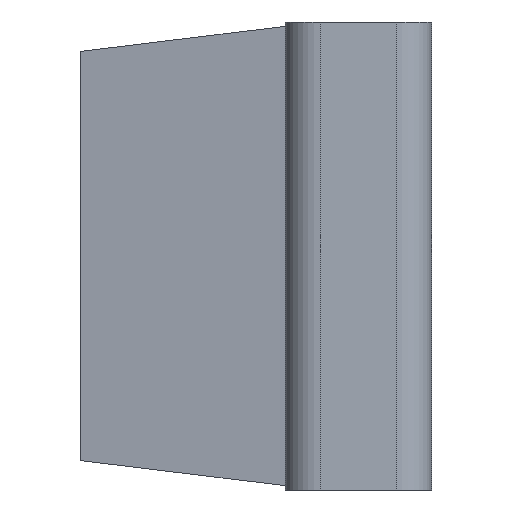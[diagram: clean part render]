
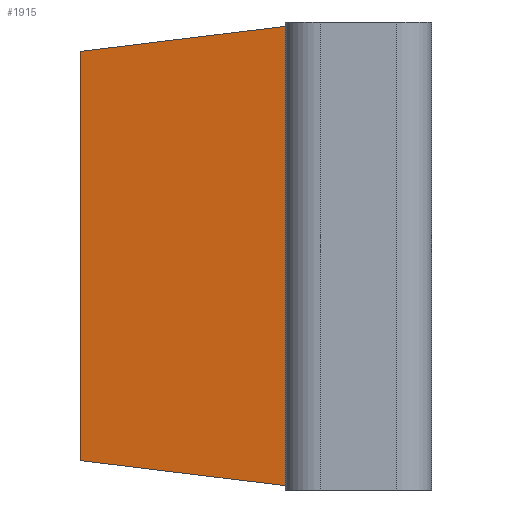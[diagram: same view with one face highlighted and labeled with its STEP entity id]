
A CAD part, left-side view. The second image highlights one B-rep face of the part: STEP entity #1915.
In plain terms, the highlighted planar face has unit normal (-0.993, 0.122, 0).
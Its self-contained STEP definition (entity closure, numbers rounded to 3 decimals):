
#78 = VERTEX_POINT ( 'NONE', #2706 ) ;
#79 = VERTEX_POINT ( 'NONE', #2705 ) ;
#81 = VERTEX_POINT ( 'NONE', #2725 ) ;
#183 = VERTEX_POINT ( 'NONE', #1970 ) ;
#377 = EDGE_CURVE ( 'NONE', #78, #79, #2846, .T. ) ;
#378 = EDGE_CURVE ( 'NONE', #78, #81, #2842, .T. ) ;
#379 = EDGE_CURVE ( 'NONE', #79, #183, #2850, .T. ) ;
#380 = EDGE_CURVE ( 'NONE', #81, #183, #2852, .T. ) ;
#1290 = FACE_OUTER_BOUND ( 'NONE', #2772, .T. ) ;
#1687 = PLANE ( 'NONE',  #3195 ) ;
#1706 = CARTESIAN_POINT ( 'NONE',  ( -0.424, 0.19, 0.4 ) ) ;
#1707 = DIRECTION ( 'NONE',  ( -0.993, 0.122, 0. ) ) ;
#1708 = DIRECTION ( 'NONE',  ( -0.122, -0.993, 0. ) ) ;
#1915 = ADVANCED_FACE ( 'NONE', ( #1290 ), #1687, .T. ) ;
#1970 = CARTESIAN_POINT ( 'NONE',  ( -0.424, 0.19, 0.4 ) ) ;
#2026 = CARTESIAN_POINT ( 'NONE',  ( -0.374, 0.6, 0.4 ) ) ;
#2035 = CARTESIAN_POINT ( 'NONE',  ( -0.412, 0.285, -0.388 ) ) ;
#2037 = DIRECTION ( 'NONE',  ( -0.121, -0.985, -0.121 ) ) ;
#2038 = DIRECTION ( 'NONE',  ( 0., 0., 1. ) ) ;
#2039 = CARTESIAN_POINT ( 'NONE',  ( -0.424, 0.19, 0.4 ) ) ;
#2040 = DIRECTION ( 'NONE',  ( 0., 0., 1. ) ) ;
#2041 = CARTESIAN_POINT ( 'NONE',  ( -0.424, 0.19, 0.4 ) ) ;
#2042 = DIRECTION ( 'NONE',  ( -0.121, -0.985, 0.121 ) ) ;
#2416 = ORIENTED_EDGE ( 'NONE', *, *, #380, .F. ) ;
#2417 = ORIENTED_EDGE ( 'NONE', *, *, #379, .T. ) ;
#2418 = ORIENTED_EDGE ( 'NONE', *, *, #377, .T. ) ;
#2419 = ORIENTED_EDGE ( 'NONE', *, *, #378, .F. ) ;
#2705 = CARTESIAN_POINT ( 'NONE',  ( -0.424, 0.19, -0.4 ) ) ;
#2706 = CARTESIAN_POINT ( 'NONE',  ( -0.374, 0.6, -0.35 ) ) ;
#2725 = CARTESIAN_POINT ( 'NONE',  ( -0.374, 0.6, 0.35 ) ) ;
#2772 = EDGE_LOOP ( 'NONE', ( #2419, #2418, #2417, #2416 ) ) ;
#2842 = LINE ( 'NONE', #2026, #2851 ) ;
#2846 = LINE ( 'NONE', #2035, #2849 ) ;
#2849 = VECTOR ( 'NONE', #2037, 1000. ) ;
#2850 = LINE ( 'NONE', #2039, #2853 ) ;
#2851 = VECTOR ( 'NONE', #2038, 1000. ) ;
#2852 = LINE ( 'NONE', #2041, #2855 ) ;
#2853 = VECTOR ( 'NONE', #2040, 1000. ) ;
#2855 = VECTOR ( 'NONE', #2042, 1000. ) ;
#3195 = AXIS2_PLACEMENT_3D ( 'NONE', #1706, #1707, #1708 ) ;
